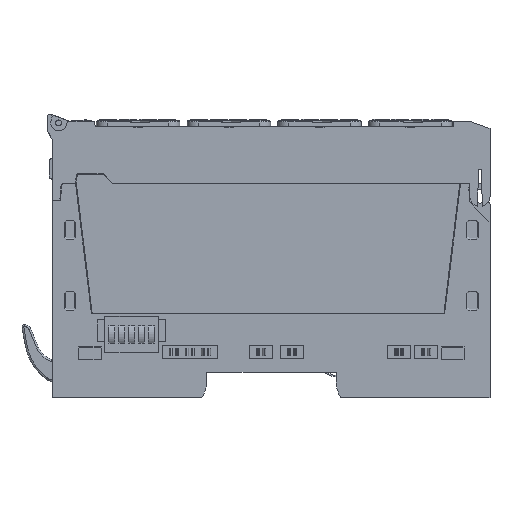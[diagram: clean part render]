
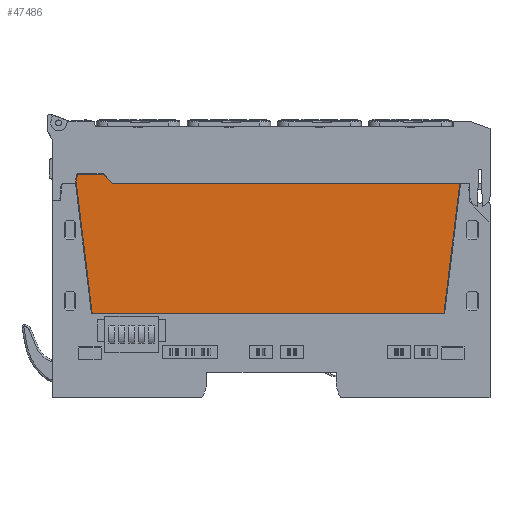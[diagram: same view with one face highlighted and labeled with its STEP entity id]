
A CAD part, top view. The second image highlights one B-rep face of the part: STEP entity #47486.
In plain terms, the highlighted planar face has unit normal (0, 0, 1).
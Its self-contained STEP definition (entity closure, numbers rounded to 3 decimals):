
#47426=AXIS2_PLACEMENT_3D('Plane Axis2P3D',#47423,#47424,#47425) ;
#47458=AXIS2_PLACEMENT_3D('Circle Axis2P3D',#47456,#47457,$) ;
#43626=CARTESIAN_POINT('Vertex',(47.15,16.1,11.5)) ;
#43629=CARTESIAN_POINT('Line Origine',(-0.9,16.1,11.5)) ;
#43633=CARTESIAN_POINT('Vertex',(-48.95,16.1,11.5)) ;
#47401=CARTESIAN_POINT('Vertex',(51.497,51.5,11.5)) ;
#47404=CARTESIAN_POINT('Line Origine',(49.323,33.8,11.5)) ;
#47423=CARTESIAN_POINT('Axis2P3D Location',(0.,0.,11.5)) ;
#47428=CARTESIAN_POINT('Line Origine',(-51.123,33.8,11.5)) ;
#47432=CARTESIAN_POINT('Vertex',(-53.297,51.5,11.5)) ;
#47435=CARTESIAN_POINT('Line Origine',(4.05,51.5,11.5)) ;
#47439=CARTESIAN_POINT('Vertex',(-43.396,51.5,11.5)) ;
#47442=CARTESIAN_POINT('Line Origine',(-44.684,52.8,11.5)) ;
#47446=CARTESIAN_POINT('Vertex',(-45.971,54.1,11.5)) ;
#47449=CARTESIAN_POINT('Line Origine',(-49.265,54.1,11.5)) ;
#47453=CARTESIAN_POINT('Vertex',(-52.558,54.1,11.5)) ;
#47456=CARTESIAN_POINT('Axis2P3D Location',(-52.558,53.6,11.5)) ;
#47460=CARTESIAN_POINT('Vertex',(-53.051,53.686,11.5)) ;
#47463=CARTESIAN_POINT('Line Origine',(-53.174,52.982,11.5)) ;
#47467=CARTESIAN_POINT('Vertex',(-53.297,52.277,11.5)) ;
#47470=CARTESIAN_POINT('Line Origine',(-53.297,51.889,11.5)) ;
#43630=DIRECTION('Vector Direction',(-1.,0.,0.)) ;
#47405=DIRECTION('Vector Direction',(0.122,0.993,0.)) ;
#47424=DIRECTION('Axis2P3D Direction',(0.,0.,1.)) ;
#47425=DIRECTION('Axis2P3D XDirection',(1.,0.,0.)) ;
#47429=DIRECTION('Vector Direction',(0.122,-0.993,0.)) ;
#47436=DIRECTION('Vector Direction',(1.,0.,0.)) ;
#47443=DIRECTION('Vector Direction',(-0.704,0.71,0.)) ;
#47450=DIRECTION('Vector Direction',(-1.,0.,0.)) ;
#47457=DIRECTION('Axis2P3D Direction',(0.,0.,1.)) ;
#47464=DIRECTION('Vector Direction',(-0.172,-0.985,0.)) ;
#47471=DIRECTION('Vector Direction',(0.,-1.,0.)) ;
#43631=VECTOR('Line Direction',#43630,1.) ;
#47406=VECTOR('Line Direction',#47405,1.) ;
#47430=VECTOR('Line Direction',#47429,1.) ;
#47437=VECTOR('Line Direction',#47436,1.) ;
#47444=VECTOR('Line Direction',#47443,1.) ;
#47451=VECTOR('Line Direction',#47450,1.) ;
#47465=VECTOR('Line Direction',#47464,1.) ;
#47472=VECTOR('Line Direction',#47471,1.) ;
#47476=ORIENTED_EDGE('',*,*,#47434,.T.) ;
#47477=ORIENTED_EDGE('',*,*,#43635,.T.) ;
#47478=ORIENTED_EDGE('',*,*,#47408,.T.) ;
#47479=ORIENTED_EDGE('',*,*,#47441,.T.) ;
#47480=ORIENTED_EDGE('',*,*,#47448,.T.) ;
#47481=ORIENTED_EDGE('',*,*,#47455,.T.) ;
#47482=ORIENTED_EDGE('',*,*,#47462,.T.) ;
#47483=ORIENTED_EDGE('',*,*,#47469,.T.) ;
#47484=ORIENTED_EDGE('',*,*,#47474,.T.) ;
#47486=ADVANCED_FACE('SP_UR20_EM.1\\SP_UR20_HO_EM.1\\ELGH_BASIC',(#47485),#47427,.T.) ;
#47459=CIRCLE('generated circle',#47458,0.5) ;
#43635=EDGE_CURVE('',#43634,#43627,#43632,.F.) ;
#47408=EDGE_CURVE('',#43627,#47402,#47407,.T.) ;
#47434=EDGE_CURVE('',#47433,#43634,#47431,.T.) ;
#47441=EDGE_CURVE('',#47402,#47440,#47438,.F.) ;
#47448=EDGE_CURVE('',#47440,#47447,#47445,.T.) ;
#47455=EDGE_CURVE('',#47447,#47454,#47452,.T.) ;
#47462=EDGE_CURVE('',#47454,#47461,#47459,.T.) ;
#47469=EDGE_CURVE('',#47461,#47468,#47466,.T.) ;
#47474=EDGE_CURVE('',#47468,#47433,#47473,.T.) ;
#47475=EDGE_LOOP('',(#47476,#47477,#47478,#47479,#47480,#47481,#47482,#47483,#47484)) ;
#47485=FACE_OUTER_BOUND('',#47475,.T.) ;
#43632=LINE('Line',#43629,#43631) ;
#47407=LINE('Line',#47404,#47406) ;
#47431=LINE('Line',#47428,#47430) ;
#47438=LINE('Line',#47435,#47437) ;
#47445=LINE('Line',#47442,#47444) ;
#47452=LINE('Line',#47449,#47451) ;
#47466=LINE('Line',#47463,#47465) ;
#47473=LINE('Line',#47470,#47472) ;
#47427=PLANE('',#47426) ;
#43627=VERTEX_POINT('',#43626) ;
#43634=VERTEX_POINT('',#43633) ;
#47402=VERTEX_POINT('',#47401) ;
#47433=VERTEX_POINT('',#47432) ;
#47440=VERTEX_POINT('',#47439) ;
#47447=VERTEX_POINT('',#47446) ;
#47454=VERTEX_POINT('',#47453) ;
#47461=VERTEX_POINT('',#47460) ;
#47468=VERTEX_POINT('',#47467) ;
